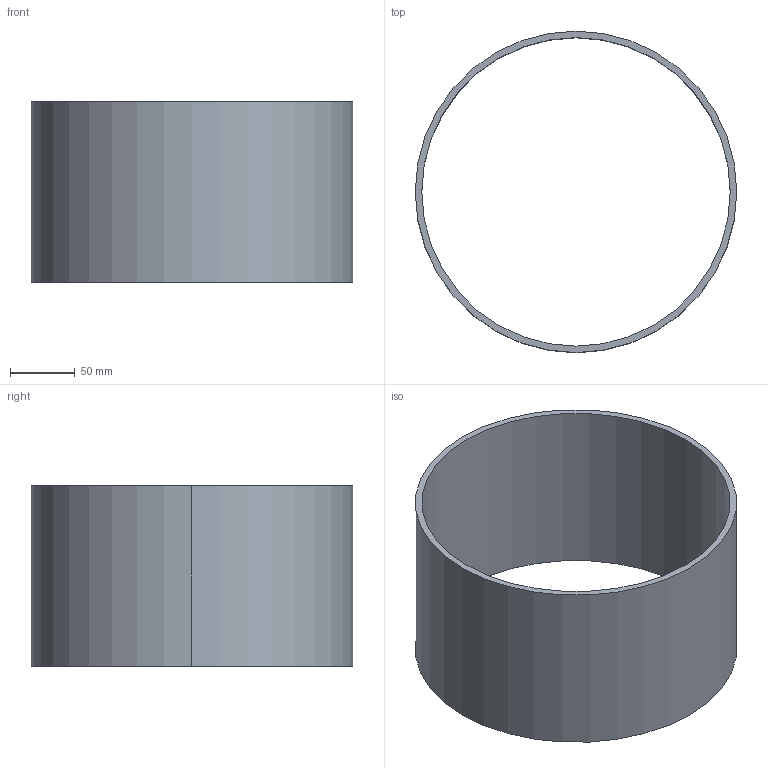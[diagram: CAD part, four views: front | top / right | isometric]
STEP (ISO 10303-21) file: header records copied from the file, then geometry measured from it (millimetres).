
FILE_DESCRIPTION(('CATIA V5 STEP Exchange'),'2;1');
FILE_NAME('C:\_Andres\UNIVERSIDAD\IQS\ASIGNATURAS\DAO\EXF\EXF-15161c\1original\Santolària_Rossell_Ej07-tabla_v24.stp','2016-03-04T21:16:35+00:00',('none'),('none'),'CATIA Version 5 Release 20 SP 1 (IN-10)','CATIA V5 STEP AP203','none');
FILE_SCHEMA(('CONFIG_CONTROL_DESIGN'));
Length unit declared in the file: millimetre
Products named in the file (1): Santolària_Rossell_Ej07-tabla_v24
Bounding box: 248 x 248 x 139 mm (x, y, z)
Volume: 530567.9 mm3; surface area: 219861.2 mm2
Topology: 1 solids, 1 shells, 6 faces, 13 edges, 10 vertices
Faces by surface type: cylinder 4, plane 2
Entity records: 208 total; most frequent: CARTESIAN_POINT 29, ORIENTED_EDGE 24, DIRECTION 23, AXIS2_PLACEMENT_3D 14, EDGE_CURVE 12, CIRCLE 8, EDGE_LOOP 8, VERTEX_POINT 8
